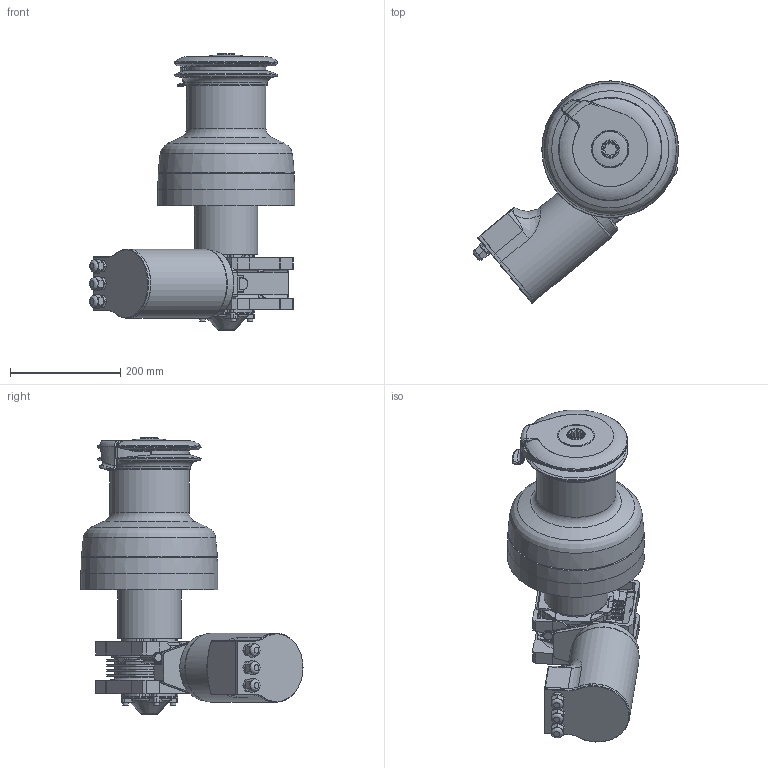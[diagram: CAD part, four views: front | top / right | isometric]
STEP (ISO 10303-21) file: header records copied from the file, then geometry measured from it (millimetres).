
FILE_DESCRIPTION(/* description */ (''),/* implementation_level */ '2;1');
FILE_NAME(/* name */ '\\ANTALSBS2K8\Catalogo Antal\CD\Contenuto\Antal - CAD library\cad_library\3d_stp\Winches\XT66_ELH.stp',/* time_stamp */ '2016-03-24T14:54:00+01:00',/* author */ ('gianni'),/* organization */ (''),/* preprocessor_version */ 'ST-DEVELOPER v16.1',/* originating_system */ 'Autodesk Inventor 2016',/* authorisation */ '');
FILE_SCHEMA (('AUTOMOTIVE_DESIGN { 1 0 10303 214 3 1 1 }'));
Length unit declared in the file: millimetre
Products named in the file (1): XT66 ELH
Bounding box: 372 x 402.31 x 500.7 mm (x, y, z)
Volume: 14139046.5 mm3; surface area: 632321.4 mm2
Topology: 1 solids, 1 shells, 1261 faces, 3416 edges, 2165 vertices
Faces by surface type: plane 509, cylinder 422, bspline 155, torus 105, cone 48, sphere 22
Full cylindrical faces by diameter (mm): 6.5 x2, 10 x4, 10.5 x6, 17.5 x3, 18 x2, 22 x3, 31.72 x1, 32.2 x1, 115 x1, 119 x1, 125 x1, 144 x2, 187 x3, 233 x1, 248 x1
Entity records: 45201 total; most frequent: CARTESIAN_POINT 15151, ORIENTED_EDGE 6534, DIRECTION 6048, EDGE_CURVE 3267, AXIS2_PLACEMENT_3D 2293, VERTEX_POINT 2125, LINE 1462, VECTOR 1462
